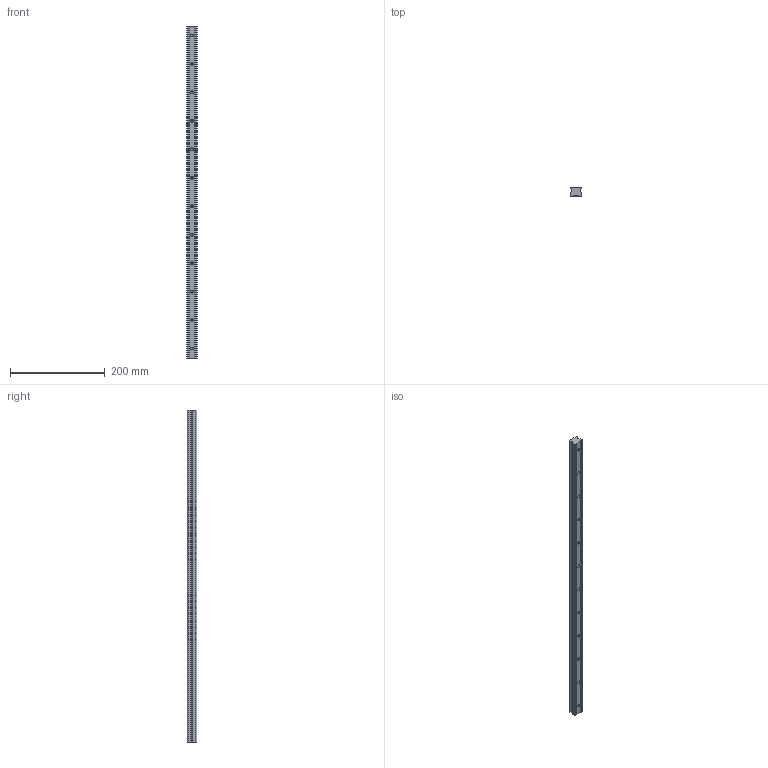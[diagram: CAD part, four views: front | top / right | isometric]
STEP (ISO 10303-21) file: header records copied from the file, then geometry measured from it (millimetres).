
FILE_DESCRIPTION (( 'STEP AP203' ), '1' );
FILE_NAME ('L1016.BRF25-0700.step', '2019-06-13T08:35:38', ( '' ), ( '' ), 'SwSTEP 2.0', 'SolidWorks 2017', '' );
FILE_SCHEMA (( 'CONFIG_CONTROL_DESIGN' ));
Length unit declared in the file: millimetre
Products named in the file (1): L1016.BRF25-0700
Bounding box: 23 x 19.2 x 700 mm (x, y, z)
Volume: 267159.2 mm3; surface area: 65080.3 mm2
Topology: 1 solids, 1 shells, 110 faces, 264 edges, 156 vertices
Faces by surface type: cylinder 52, plane 34, cone 24
Entity records: 3109 total; most frequent: DIRECTION 566, CARTESIAN_POINT 507, ORIENTED_EDGE 480, EDGE_CURVE 240, AXIS2_PLACEMENT_3D 215, VERTEX_POINT 156, VECTOR 136, LINE 136
